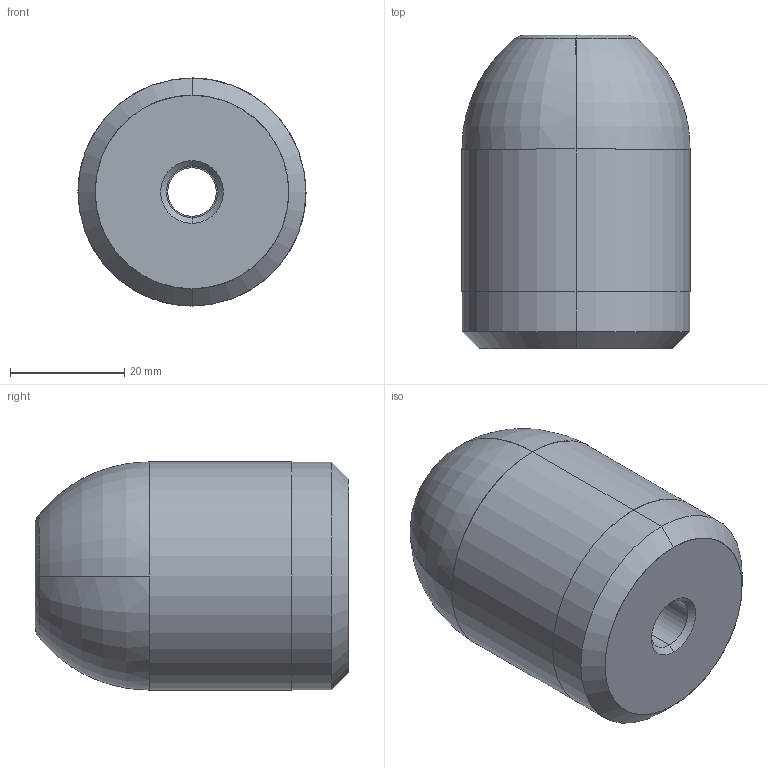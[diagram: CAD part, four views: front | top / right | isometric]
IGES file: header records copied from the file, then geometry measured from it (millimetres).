
Start section: START RECORD GO HERE.
Global section: file name: 700-40-55.igs; native system: DASSAULT SYSTEMES CATIA V5 R20 - www.3ds.com; preprocessor: CATIA Version 5 Release 20 ; author: Utente; organization: NB04-ASUS; date: 20201129.131614; units: millimetre
Bounding box: 40 x 55 x 40 mm (x, y, z)
Surface area: 9524 mm2 (no closed solid volume)
Topology: 0 solids, 0 shells, 24 faces, 100 edges, 100 vertices
Faces by surface type: revolution 20, plane 4
